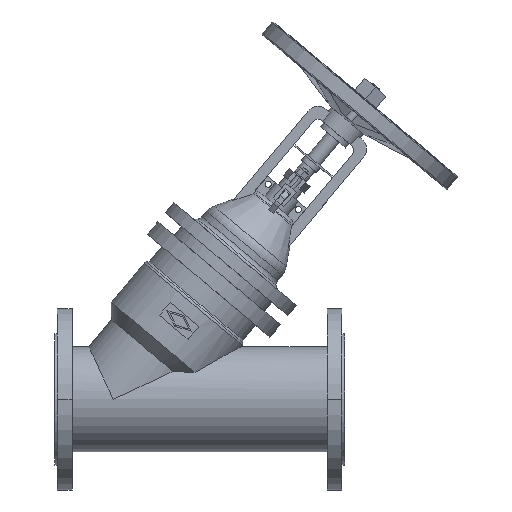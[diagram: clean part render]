
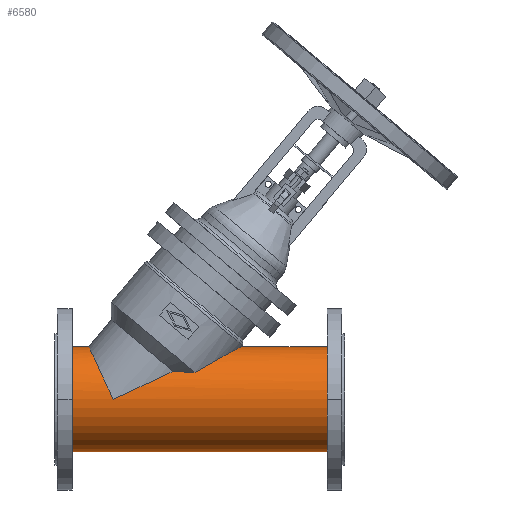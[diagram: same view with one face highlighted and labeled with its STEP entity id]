
A CAD part, top view. The second image highlights one B-rep face of the part: STEP entity #6580.
In plain terms, the highlighted cylindrical face has radius 87 mm (diameter 174 mm), a partial arc.
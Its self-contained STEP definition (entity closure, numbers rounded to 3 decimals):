
#2440=CARTESIAN_POINT('',(308.375,87.,
0.));
#2450=VERTEX_POINT('',#2440);
#2480=CARTESIAN_POINT('',(232.325,44.429,
74.8));
#2490=CARTESIAN_POINT('',(233.383,45.086,
74.41));
#2500=CARTESIAN_POINT('',(234.441,45.738,
74.011));
#2510=CARTESIAN_POINT('',(239.762,48.996,
71.958));
#2520=CARTESIAN_POINT('',(244.001,51.525,
70.17));
#2530=CARTESIAN_POINT('',(252.339,56.408,
66.308));
#2540=CARTESIAN_POINT('',(256.438,58.762,
64.234));
#2550=CARTESIAN_POINT('',(264.408,63.276,
59.793));
#2560=CARTESIAN_POINT('',(268.279,65.436,
57.426));
#2570=CARTESIAN_POINT('',(274.219,68.716,
53.394));
#2580=CARTESIAN_POINT('',(276.461,69.946,
51.778));
#2590=CARTESIAN_POINT('',(280.897,72.366,
48.338));
#2600=CARTESIAN_POINT('',(283.091,73.556,
46.514));
#2610=CARTESIAN_POINT('',(287.351,75.855,
42.662));
#2620=CARTESIAN_POINT('',(289.417,76.964,
40.635));
#2630=CARTESIAN_POINT('',(293.341,79.062,
36.384));
#2640=CARTESIAN_POINT('',(295.2,80.051,
34.161));
#2650=CARTESIAN_POINT('',(300.349,82.784,
27.214));
#2660=CARTESIAN_POINT('',(303.214,84.292,
22.21));
#2670=CARTESIAN_POINT('',(306.223,85.873,
14.222));
#2680=CARTESIAN_POINT('',(307.011,86.286,
11.479));
#2690=CARTESIAN_POINT('',(308.087,86.849,
5.847));
#2700=CARTESIAN_POINT('',(308.375,87.,2.957));
#2710=CARTESIAN_POINT('',(308.375,87.,-2.957));
#2720=CARTESIAN_POINT('',(308.087,86.849,
-5.847));
#2730=CARTESIAN_POINT('',(307.011,86.286,
-11.479));
#2740=CARTESIAN_POINT('',(306.223,85.873,
-14.222));
#2750=CARTESIAN_POINT('',(303.214,84.292,
-22.21));
#2760=CARTESIAN_POINT('',(300.349,82.784,
-27.214));
#2770=CARTESIAN_POINT('',(295.2,80.051,
-34.161));
#2780=CARTESIAN_POINT('',(293.341,79.062,
-36.384));
#2790=CARTESIAN_POINT('',(289.417,76.964,
-40.635));
#2800=CARTESIAN_POINT('',(287.351,75.855,
-42.662));
#2810=CARTESIAN_POINT('',(283.091,73.556,
-46.514));
#2820=CARTESIAN_POINT('',(280.897,72.366,
-48.338));
#2830=CARTESIAN_POINT('',(276.461,69.946,
-51.778));
#2840=CARTESIAN_POINT('',(274.219,68.716,
-53.394));
#2850=CARTESIAN_POINT('',(268.279,65.436,
-57.426));
#2860=CARTESIAN_POINT('',(264.408,63.276,
-59.793));
#2870=CARTESIAN_POINT('',(256.438,58.762,
-64.234));
#2880=CARTESIAN_POINT('',(252.339,56.408,
-66.308));
#2890=CARTESIAN_POINT('',(244.001,51.525,
-70.17));
#2900=CARTESIAN_POINT('',(239.762,48.996,
-71.958));
#2910=CARTESIAN_POINT('',(234.441,45.738,
-74.011));
#2920=CARTESIAN_POINT('',(233.383,45.086,
-74.41));
#2930=CARTESIAN_POINT('',(232.325,44.429,
-74.8));
#2940=B_SPLINE_CURVE_WITH_KNOTS('',3,(#2480,#2490,#2500,#2510,#2520,
#2530,#2540,#2550,#2560,#2570,#2580,#2590,#2600,#2610,#2620,#2630,#2640,
#2650,#2660,#2670,#2680,#2690,#2700,#2710,#2720,#2730,#2740,#2750,#2760,
#2770,#2780,#2790,#2800,#2810,#2820,#2830,#2840,#2850,#2860,#2870,#2880,
#2890,#2900,#2910,#2920,#2930),.UNSPECIFIED.,.F.,.F.,(4,2,2,2,2,2,2,2,2,
2,2,2,2,2,2,2,2,2,2,2,2,2,4),(341.799,345.466,
360.272,375.079,389.885,398.757,
407.629,416.501,425.372,443.116,
451.988,460.86,469.731,478.603,
496.347,505.219,514.09,522.962,
531.834,546.64,561.447,576.253,
579.92),.UNSPECIFIED.);
#2950=CARTESIAN_POINT('',(232.325,44.429,
74.8));
#2960=VERTEX_POINT('',#2950);
#2970=EDGE_CURVE('',#2960,#2450,#2940,.T.);
#3630=CARTESIAN_POINT('',(56.431,87.,
0.));
#3640=VERTEX_POINT('',#3630);
#3670=CARTESIAN_POINT('',(97.,0.,0.));
#3680=DIRECTION('',(0.906,0.423,
0.));
#3690=DIRECTION('',(-0.423,0.906,
0.));
#3700=AXIS2_PLACEMENT_3D('',#3670,#3680,#3690);
#3710=ELLIPSE('',#3700,95.994,87.);
#5900=CARTESIAN_POINT('',(240.,0.,0.));
#5910=DIRECTION('',(1.,0.,0.));
#5920=DIRECTION('',(0.,1.,0.));
#5930=AXIS2_PLACEMENT_3D('',#5900,#5910,#5920);
#5940=CYLINDRICAL_SURFACE('',#5930,87.);
#5950=CARTESIAN_POINT('',(240.,87.,0.));
#5960=DIRECTION('',(1.,0.,0.));
#5970=VECTOR('',#5960,1.);
#5980=LINE('',#5950,#5970);
#5990=CARTESIAN_POINT('',(29.04,87.,0.));
#6000=VERTEX_POINT('',#5990);
#6010=EDGE_CURVE('',#6000,#3640,#5980,.T.);
#6020=ORIENTED_EDGE('',*,*,#6010,.F.);
#6030=CARTESIAN_POINT('',(97.,0.,87.));
#6040=VERTEX_POINT('',#6030);
#6050=EDGE_CURVE('',#3640,#6040,#3710,.T.);
#6060=ORIENTED_EDGE('',*,*,#6050,.F.);
#6070=CARTESIAN_POINT('',(97.,0.,0.));
#6080=DIRECTION('',(-0.423,0.906,0.));
#6090=DIRECTION('',(0.906,0.423,
0.));
#6100=AXIS2_PLACEMENT_3D('',#6070,#6080,#6090);
#6110=ELLIPSE('',#6100,205.86,87.);
#6120=CARTESIAN_POINT('',(196.02,46.174,73.736));
#6130=VERTEX_POINT('',#6120);
#6140=EDGE_CURVE('',#6040,#6130,#6110,.T.);
#6150=ORIENTED_EDGE('',*,*,#6140,.F.);
#6160=CARTESIAN_POINT('',(232.325,44.429,
74.8));
#6170=CARTESIAN_POINT('',(229.012,44.456,
74.784));
#6180=CARTESIAN_POINT('',(225.652,44.512,
74.751));
#6190=CARTESIAN_POINT('',(217.271,44.744,
74.612));
#6200=CARTESIAN_POINT('',(212.214,44.962,
74.482));
#6210=CARTESIAN_POINT('',(203.436,45.523,
74.14));
#6220=CARTESIAN_POINT('',(199.724,45.815,
73.961));
#6230=CARTESIAN_POINT('',(196.02,46.174,73.736));
#6240=B_SPLINE_CURVE_WITH_KNOTS('',3,(#6160,#6170,#6180,#6190,#6200,
#6210,#6220,#6230),.UNSPECIFIED.,.F.,.F.,(4,2,2,4),(68.43,
78.227,92.633,103.127),.UNSPECIFIED.);
#6250=EDGE_CURVE('',#2960,#6130,#6240,.T.);
#6260=ORIENTED_EDGE('',*,*,#6250,.T.);
#6270=ORIENTED_EDGE('',*,*,#2970,.F.);
#6280=CARTESIAN_POINT('',(450.96,87.,0.));
#6290=VERTEX_POINT('',#6280);
#6300=EDGE_CURVE('',#2450,#6290,#5980,.T.);
#6310=ORIENTED_EDGE('',*,*,#6300,.F.);
#6320=CARTESIAN_POINT('',(450.96,0.,0.));
#6330=DIRECTION('',(-1.,0.,0.));
#6340=DIRECTION('',(0.,1.,0.));
#6350=AXIS2_PLACEMENT_3D('',#6320,#6330,#6340);
#6360=CIRCLE('',#6350,87.);
#6370=CARTESIAN_POINT('',(450.96,-87.,0.));
#6380=VERTEX_POINT('',#6370);
#6390=EDGE_CURVE('',#6380,#6290,#6360,.T.);
#6400=ORIENTED_EDGE('',*,*,#6390,.T.);
#6410=CARTESIAN_POINT('',(240.,-87.,0.));
#6420=DIRECTION('',(1.,0.,0.));
#6430=VECTOR('',#6420,1.);
#6440=LINE('',#6410,#6430);
#6450=CARTESIAN_POINT('',(29.04,-87.,0.));
#6460=VERTEX_POINT('',#6450);
#6470=EDGE_CURVE('',#6460,#6380,#6440,.T.);
#6480=ORIENTED_EDGE('',*,*,#6470,.T.);
#6490=CARTESIAN_POINT('',(29.04,0.,0.));
#6500=DIRECTION('',(-1.,0.,0.));
#6510=DIRECTION('',(0.,1.,0.));
#6520=AXIS2_PLACEMENT_3D('',#6490,#6500,#6510);
#6530=CIRCLE('',#6520,87.);
#6540=EDGE_CURVE('',#6460,#6000,#6530,.T.);
#6550=ORIENTED_EDGE('',*,*,#6540,.F.);
#6560=EDGE_LOOP('',(#6550,#6480,#6400,#6310,#6270,#6260,#6150,#6060,
#6020));
#6570=FACE_OUTER_BOUND('',#6560,.T.);
#6580=ADVANCED_FACE('',(#6570),#5940,.T.);
